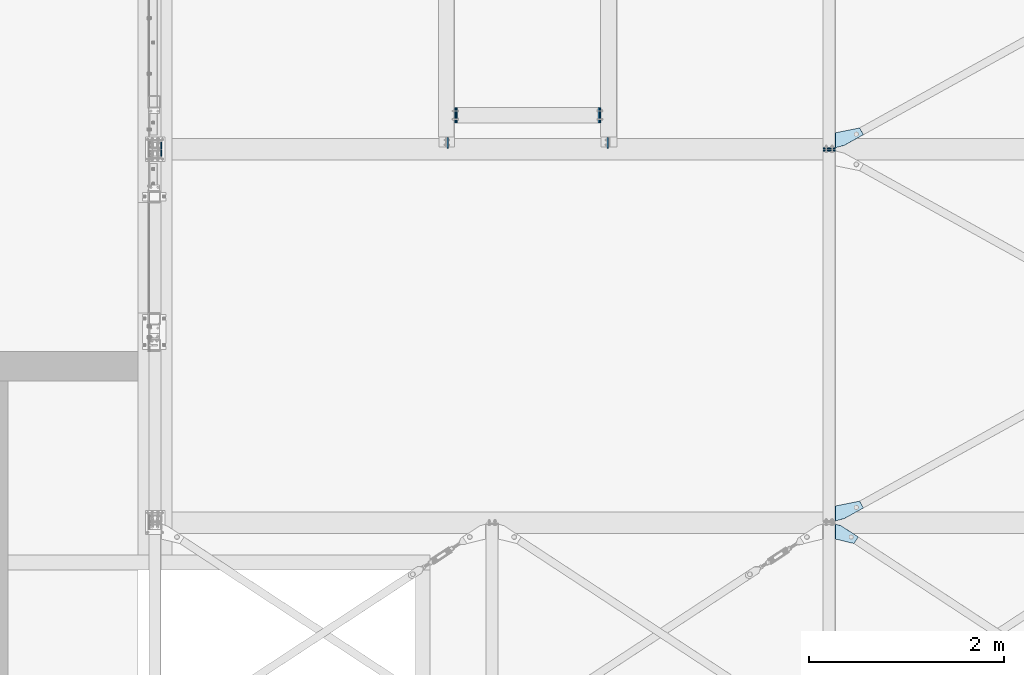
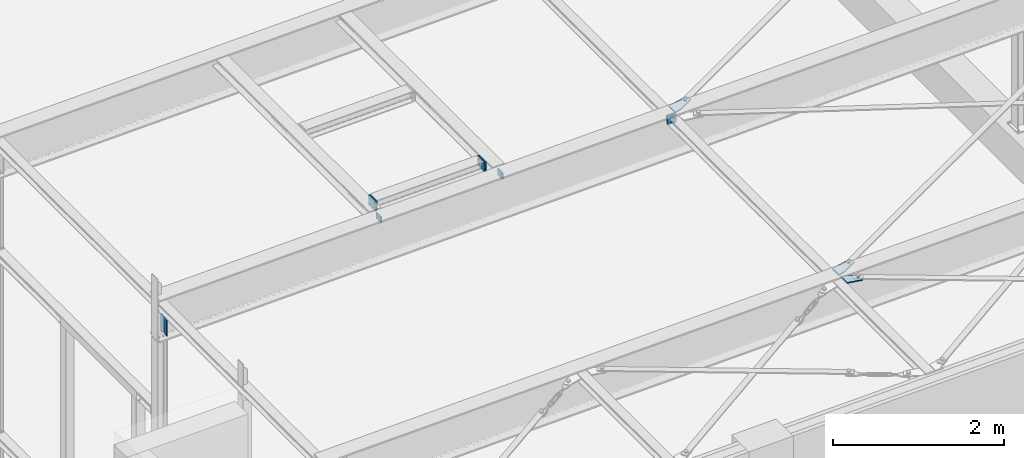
# One storey, part 36 of 476: 13 plates, 59 openings.
"""IFC2X3 building model written with IfcOpenShell, lengths in millimetres."""

from ifc_helpers import new_model, entity, si_unit, converted_unit, point, frame, frame_2d, origin, origin_with_axes, origin_2d_with_axis, place, context, project, spatial, polyline, circle_curve, line_curve, trimmed, segment, composite_curve, circle, outline, extrude, material, layer, layer_set, element, save


model = new_model("IFC2X3")

# Units and contexts
model_context = context("Model", 3, precision=1e-09, world=origin_with_axes())
ifc_project = project(units=[si_unit("LENGTHUNIT", "METRE", prefix="MILLI"), si_unit("AREAUNIT", "SQUARE_METRE"), si_unit("VOLUMEUNIT", "CUBIC_METRE"), converted_unit("PLANEANGLEUNIT", "DEGREE", entity("IfcPlaneAngleMeasure", 0.01745329), si_unit("PLANEANGLEUNIT", "RADIAN"), dimensions=[0, 0, 0, 0, 0, 0, 0])], contexts=[model_context])

# Site, building, storey
site_placement = place(None, origin_with_axes())
site = spatial("IfcSite", under=ifc_project, at=site_placement, Name="mKR Teilneubau & Sanierung BA1 - Ostfildern", CompositionType="ELEMENT")
building_placement = place(site_placement, origin_with_axes())
building = spatial("IfcBuilding", under=site, at=building_placement, Name="Struktur 1", CompositionType="ELEMENT")
storey_placement = place(building_placement, origin_with_axes())
storey = spatial("IfcBuildingStorey", under=building, at=storey_placement, Name="Default Storey", CompositionType="ELEMENT", Elevation=0.0)

# Plate, openings
ifc_material = material(Name="S235JR")
ifc_layer_1 = layer(ifc_material, 15.0)
ifc_layer_set_1 = layer_set([ifc_layer_1], Name="S235JR")
plate_1_placement = place(None, frame((15123.866061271, -21207.67287897, 5423.533418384), z_axis=(-0.030019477, 0.0, 0.999549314), x_axis=(0.999549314, 0.0, 0.030019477)))
plate_1 = element("IfcPlate", 1, at=plate_1_placement, inside=storey, material=ifc_layer_set_1, Name="-", ObjectType="-", context=model_context, shape_type="SweptSolid", body=[
    extrude(outline(polyline([(0.0, 0.0), (55.140356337, 0.0), (291.381008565, 130.729269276), (252.646618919, 200.726934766), (1e-09, 150.0), (0.0, 0.0)])), origin_with_axes(), (0.0, 0.0, -1.0), 15.0),
])
opening_1_placement = place(plate_1_placement, frame((55.140356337, 0.0, 0.01), z_axis=(0.0, 0.0, 1.0), x_axis=(0.874966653, 0.484183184, 0.0)))
element("IfcOpeningElement", 2, at=opening_1_placement, cuts=plate_1, ObjectType="Opening", context=model_context, shape_type="SweptSolid", body=[
    extrude(outline(composite_curve([segment(trimmed(line_curve((0.0, 0.0), (1.0, 0.0), 45.191234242), [point((0.0, 0.0))], [point((45.191234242, 0.0))], True, "CARTESIAN"), True, "CONTINUOUS"), segment(trimmed(circle_curve(frame_2d((45.191234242, 175.0), x_axis=(-1.0, 0.0)), 175.0), [point((45.191234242, 0.0))], [point((-39.540822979, 21.880835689))], False, "CARTESIAN"), True, "CONTINUOUS"), segment(trimmed(line_curve((-39.540822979, 21.880835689), (0.874966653, -0.484183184), 45.191234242), [point((-39.540822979, 21.880835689))], [point((0.0, 0.0))], True, "CARTESIAN"), True, "CONTINUOUS")], self_intersect=False)), origin(), (0.0, 0.0, -1.0), 15.02),
])
opening_2_placement = place(plate_1_placement, frame((0.0, -0.001, 0.0), z_axis=(0.0, 1.0, 0.0), x_axis=(1.0, 0.0, 0.0)))
element("IfcOpeningElement", 3, at=opening_2_placement, cuts=plate_1, ObjectType="Opening", context=model_context, shape_type="SweptSolid", body=[
    extrude(outline(polyline([(0.0, 0.0), (8.0, 0.0), (0.0, 8.0), (0.0, 0.0)])), origin(), (0.0, 0.0, 1.0), 151.628257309),
])
opening_3_placement = place(plate_1_placement, frame((232.203782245, 143.697336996, -15.499404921), z_axis=(2.2474e-05, 0.0, -1.0), x_axis=(-1.0, 0.0, -2.2474e-05)))
element("IfcOpeningElement", 4, at=opening_3_placement, cuts=plate_1, ObjectType="Opening", context=model_context, shape_type="SweptSolid", body=[
    extrude(circle(Radius=14.501, at=frame_2d((12.687891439, -7.021140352), x_axis=(1.0, 0.0))), origin(), (0.0, 0.0, -1.0), 16.000000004),
])

plate_2_placement = place(None, frame((15123.866061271, -17387.67287897, 5423.533418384), z_axis=(-0.030019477, 0.0, 0.999549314), x_axis=(0.999549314, 0.0, 0.030019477)))
plate_2 = element("IfcPlate", 5, at=plate_2_placement, inside=storey, material=ifc_layer_set_1, Name="-", ObjectType="-", context=model_context, shape_type="SweptSolid", body=[
    extrude(outline(polyline([(0.0, 0.0), (55.140356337, 0.0), (291.381008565, 130.729269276), (252.646618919, 200.726934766), (1e-09, 150.0), (0.0, 0.0)])), origin_with_axes(), (0.0, 0.0, -1.0), 15.0),
])
opening_4_placement = place(plate_2_placement, frame((55.140356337, 0.0, 0.01), z_axis=(0.0, 0.0, 1.0), x_axis=(0.874966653, 0.484183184, 0.0)))
element("IfcOpeningElement", 6, at=opening_4_placement, cuts=plate_2, ObjectType="Opening", context=model_context, shape_type="SweptSolid", body=[
    extrude(outline(composite_curve([segment(trimmed(line_curve((0.0, 0.0), (1.0, 0.0), 45.191234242), [point((0.0, 0.0))], [point((45.191234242, 0.0))], True, "CARTESIAN"), True, "CONTINUOUS"), segment(trimmed(circle_curve(frame_2d((45.191234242, 175.0), x_axis=(-1.0, 0.0)), 175.0), [point((45.191234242, 0.0))], [point((-39.540822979, 21.880835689))], False, "CARTESIAN"), True, "CONTINUOUS"), segment(trimmed(line_curve((-39.540822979, 21.880835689), (0.874966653, -0.484183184), 45.191234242), [point((-39.540822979, 21.880835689))], [point((0.0, 0.0))], True, "CARTESIAN"), True, "CONTINUOUS")], self_intersect=False)), origin(), (0.0, 0.0, -1.0), 15.02),
])
opening_5_placement = place(plate_2_placement, frame((0.0, -0.001, 0.0), z_axis=(0.0, 1.0, 0.0), x_axis=(1.0, 0.0, 0.0)))
element("IfcOpeningElement", 7, at=opening_5_placement, cuts=plate_2, ObjectType="Opening", context=model_context, shape_type="SweptSolid", body=[
    extrude(outline(polyline([(0.0, 0.0), (8.0, 0.0), (0.0, 8.0), (0.0, 0.0)])), origin(), (0.0, 0.0, 1.0), 151.628257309),
])
opening_6_placement = place(plate_2_placement, frame((232.203782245, 143.697336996, -15.499404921), z_axis=(2.2474e-05, 0.0, -1.0), x_axis=(-1.0, 0.0, -2.2474e-05)))
element("IfcOpeningElement", 8, at=opening_6_placement, cuts=plate_2, ObjectType="Opening", context=model_context, shape_type="SweptSolid", body=[
    extrude(circle(Radius=14.501, at=frame_2d((12.687891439, -7.021140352), x_axis=(1.0, 0.0))), origin(), (0.0, 0.0, -1.0), 16.000000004),
])

plate_3_placement = place(None, frame((15123.866061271, -21243.67487897, 5423.533418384), z_axis=(0.030019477, 0.0, -0.999549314), x_axis=(0.999549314, 0.0, 0.030019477)))
plate_3 = element("IfcPlate", 9, at=plate_3_placement, inside=storey, material=ifc_layer_set_1, Name="-", ObjectType="-", context=model_context, shape_type="SweptSolid", body=[
    extrude(outline(polyline([(0.0, 0.0), (40.371139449, 0.0), (239.157976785, 130.393742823), (195.281580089, 197.285566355), (1e-09, 150.0), (0.0, 0.0)])), origin_with_axes(), (0.0, 0.0, 1.0), 15.0),
])
opening_7_placement = place(plate_3_placement, frame((1e-09, 151.938123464, 0.0), z_axis=(0.0, -1.0, 0.0), x_axis=(1.0, 0.0, 0.0)))
element("IfcOpeningElement", 10, at=opening_7_placement, cuts=plate_3, ObjectType="Opening", context=model_context, shape_type="SweptSolid", body=[
    extrude(outline(polyline([(0.0, 0.0), (8.0, 0.0), (0.0, 8.0), (0.0, 0.0)])), origin(), (0.0, 0.0, 1.0), 151.959123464),
])
opening_8_placement = place(plate_3_placement, frame((0.0, 0.0, -0.01), z_axis=(0.0, 0.0, 1.0), x_axis=(1.0, 0.0, 0.0)))
element("IfcOpeningElement", 11, at=opening_8_placement, cuts=plate_3, ObjectType="Opening", context=model_context, shape_type="SweptSolid", body=[
    extrude(outline(composite_curve([segment(trimmed(line_curve((40.371139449, 0.0), (0.83616389, 0.548479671), 29.87095402), [point((40.371139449, 0.0))], [point((65.348152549, 16.383611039))], True, "CARTESIAN"), True, "CONTINUOUS"), segment(trimmed(circle_curve(frame_2d((10.500185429, 100.0), x_axis=(-1.0, 0.0)), 100.0), [point((65.348152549, 16.383611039))], [point((10.500185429, 0.0))], False, "CARTESIAN"), True, "CONTINUOUS"), segment(trimmed(line_curve((10.500185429, 0.0), (1.0, 0.0), 29.87095402), [point((10.500185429, 0.0))], [point((40.371139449, 0.0))], True, "CARTESIAN"), True, "CONTINUOUS")], self_intersect=False)), origin(), (0.0, 0.0, 1.0), 15.02),
])
opening_9_placement = place(plate_3_placement, frame((167.050213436, 130.930465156, 15.5), z_axis=(0.0, 0.0, -1.0), x_axis=(0.0, -1.0, 0.0)))
element("IfcOpeningElement", 12, at=opening_9_placement, cuts=plate_3, ObjectType="Opening", context=model_context, shape_type="SweptSolid", body=[
    extrude(circle(Radius=14.501, at=origin_2d_with_axis()), origin(), (0.0, 0.0, 1.0), 16.0),
])

plate_4_placement = place(None, frame((11259.887346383, -17055.673034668, 5291.208635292), z_axis=(-0.999549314, 0.0, -0.030019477), x_axis=(0.030019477, 0.0, -0.999549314)))
plate_4 = element("IfcPlate", 13, at=plate_4_placement, inside=storey, material=ifc_layer_set_1, Name="Endplate#1", ObjectType="Endplate#1", context=model_context, shape_type="SweptSolid", body=[
    extrude(outline(polyline([(-70.0, -80.0), (70.0, -80.0), (70.0, 80.0), (-70.0, 80.0), (-70.0, -80.0)])), origin_with_axes(), (0.0, 0.0, 1.0), 15.0),
])
opening_10_placement = place(plate_4_placement, frame((52.0, 18.0, 15.5), z_axis=(0.0, 0.0, -1.0), x_axis=(-1.0, 0.0, 0.0)))
element("IfcOpeningElement", 14, at=opening_10_placement, cuts=plate_4, ObjectType="Opening", context=model_context, shape_type="SweptSolid", body=[
    extrude(circle(Radius=6.001, at=origin_2d_with_axis()), origin(), (0.0, 0.0, 1.0), 16.0),
])
opening_11_placement = place(plate_4_placement, frame((-52.0, 18.0, 15.5), z_axis=(0.0, 0.0, -1.0), x_axis=(-1.0, 0.0, 0.0)))
element("IfcOpeningElement", 15, at=opening_11_placement, cuts=plate_4, ObjectType="Opening", context=model_context, shape_type="SweptSolid", body=[
    extrude(circle(Radius=6.001, at=origin_2d_with_axis()), origin(), (0.0, 0.0, 1.0), 16.0),
])
opening_12_placement = place(plate_4_placement, frame((-52.0, -18.0, 15.5), z_axis=(0.0, 0.0, -1.0), x_axis=(-1.0, 0.0, 0.0)))
element("IfcOpeningElement", 16, at=opening_12_placement, cuts=plate_4, ObjectType="Opening", context=model_context, shape_type="SweptSolid", body=[
    extrude(circle(Radius=6.001, at=origin_2d_with_axis()), origin(), (0.0, 0.0, 1.0), 16.0),
])
opening_13_placement = place(plate_4_placement, frame((52.0, -18.0, 15.5), z_axis=(0.0, 0.0, -1.0), x_axis=(-1.0, 0.0, 0.0)))
element("IfcOpeningElement", 17, at=opening_13_placement, cuts=plate_4, ObjectType="Opening", context=model_context, shape_type="SweptSolid", body=[
    extrude(circle(Radius=6.001, at=origin_2d_with_axis()), origin(), (0.0, 0.0, 1.0), 16.0),
])
opening_14_placement = place(plate_4_placement, frame((35.0, 43.0, 15.5), z_axis=(0.0, 0.0, -1.0), x_axis=(-1.0, 0.0, 0.0)))
element("IfcOpeningElement", 18, at=opening_14_placement, cuts=plate_4, ObjectType="Opening", context=model_context, shape_type="SweptSolid", body=[
    extrude(circle(Radius=7.001, at=frame_2d((70.0, 0.0), x_axis=(1.0, 0.0))), origin(), (0.0, 0.0, 1.0), 16.0),
])
opening_15_placement = place(plate_4_placement, frame((35.0, 43.0, 15.5), z_axis=(0.0, 0.0, -1.0), x_axis=(-1.0, 0.0, 0.0)))
element("IfcOpeningElement", 19, at=opening_15_placement, cuts=plate_4, ObjectType="Opening", context=model_context, shape_type="SweptSolid", body=[
    extrude(circle(Radius=7.001, at=origin_2d_with_axis()), origin(), (0.0, 0.0, 1.0), 16.0),
])
opening_16_placement = place(plate_4_placement, frame((35.0, -43.0, 15.5), z_axis=(0.0, 0.0, -1.0), x_axis=(0.0, -1.0, 0.0)))
element("IfcOpeningElement", 20, at=opening_16_placement, cuts=plate_4, ObjectType="Opening", context=model_context, shape_type="SweptSolid", body=[
    extrude(circle(Radius=7.001, at=frame_2d((0.0, 70.0), x_axis=(1.0, 0.0))), origin(), (0.0, 0.0, 1.0), 16.0),
])
opening_17_placement = place(plate_4_placement, frame((35.0, -43.0, 15.5), z_axis=(0.0, 0.0, -1.0), x_axis=(0.0, -1.0, 0.0)))
element("IfcOpeningElement", 21, at=opening_17_placement, cuts=plate_4, ObjectType="Opening", context=model_context, shape_type="SweptSolid", body=[
    extrude(circle(Radius=7.001, at=origin_2d_with_axis()), origin(), (0.0, 0.0, 1.0), 16.0),
])

plate_5_placement = place(None, frame((11229.900866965, -17055.673034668, 5290.308050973), z_axis=(0.999549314, 0.0, 0.030019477), x_axis=(0.0, 1.0, 0.0)))
plate_5 = element("IfcPlate", 22, at=plate_5_placement, inside=storey, material=ifc_layer_set_1, Name="T-plate", ObjectType="T-plate", context=model_context, shape_type="SweptSolid", body=[
    extrude(outline(polyline([(-80.0, -70.0), (80.0, -70.0), (80.0, 70.0), (-80.0, 70.0), (-80.0, -70.0)])), origin_with_axes(), (0.0, 0.0, 1.0), 15.0),
])
opening_18_placement = place(plate_5_placement, frame((-43.0, -35.0, -0.5), z_axis=(0.0, 0.0, 1.0), x_axis=(0.0, 1.0, 0.0)))
element("IfcOpeningElement", 23, at=opening_18_placement, cuts=plate_5, ObjectType="Opening", context=model_context, shape_type="SweptSolid", body=[
    extrude(circle(Radius=7.001, at=frame_2d((70.0, 0.0), x_axis=(1.0, 0.0))), origin(), (0.0, 0.0, 1.0), 16.0),
])
opening_19_placement = place(plate_5_placement, frame((-43.0, -35.0, -0.5), z_axis=(0.0, 0.0, 1.0), x_axis=(0.0, 1.0, 0.0)))
element("IfcOpeningElement", 24, at=opening_19_placement, cuts=plate_5, ObjectType="Opening", context=model_context, shape_type="SweptSolid", body=[
    extrude(circle(Radius=7.001, at=origin_2d_with_axis()), origin(), (0.0, 0.0, 1.0), 16.0),
])
opening_20_placement = place(plate_5_placement, frame((43.0, -35.0, -0.5), z_axis=(0.0, 0.0, 1.0), x_axis=(1.0, 0.0, 0.0)))
element("IfcOpeningElement", 25, at=opening_20_placement, cuts=plate_5, ObjectType="Opening", context=model_context, shape_type="SweptSolid", body=[
    extrude(circle(Radius=7.001, at=frame_2d((0.0, 70.0), x_axis=(1.0, 0.0))), origin(), (0.0, 0.0, 1.0), 16.0),
])
opening_21_placement = place(plate_5_placement, frame((43.0, -35.0, -0.5), z_axis=(0.0, 0.0, 1.0), x_axis=(1.0, 0.0, 0.0)))
element("IfcOpeningElement", 26, at=opening_21_placement, cuts=plate_5, ObjectType="Opening", context=model_context, shape_type="SweptSolid", body=[
    extrude(circle(Radius=7.001, at=origin_2d_with_axis()), origin(), (0.0, 0.0, 1.0), 16.0),
])

plate_6_placement = place(None, frame((12804.92814849, -17399.67387897, 5379.66874502), z_axis=(-0.999549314, 0.0, -0.030019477), x_axis=(0.0, 1.0, 0.0)))
plate_6 = element("IfcPlate", 27, at=plate_6_placement, inside=storey, material=ifc_layer_set_1, Name="LugPlate#1", ObjectType="LugPlate#1", context=model_context, shape_type="SweptSolid", body=[
    extrude(outline(polyline([(0.0, 0.0), (115.0, 0.0), (115.0, 90.0), (0.0, 90.0), (0.0, 0.0)])), origin_with_axes(), (0.0, 0.0, 1.0), 15.0),
])
opening_22_placement = place(plate_6_placement, frame((0.0, 0.0, 15.1), z_axis=(0.0, 0.0, -1.0), x_axis=(1.0, 0.0, 0.0)))
element("IfcOpeningElement", 28, at=opening_22_placement, cuts=plate_6, ObjectType="Opening", context=model_context, shape_type="SweptSolid", body=[
    extrude(outline(polyline([(24.002414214, 15.000932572), (-0.001, 15.000932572), (-0.001, -9.002481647), (24.002414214, 15.000932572)])), origin(), (0.0, 0.0, 1.0), 15.2),
])
opening_23_placement = place(plate_6_placement, frame((82.999, 65.0, 15.5), z_axis=(0.0, 0.0, 1.0), x_axis=(1.0, 0.0, 0.0)))
element("IfcOpeningElement", 29, at=opening_23_placement, cuts=plate_6, ObjectType="Opening", context=model_context, shape_type="SweptSolid", body=[
    extrude(circle(Radius=7.001, at=frame_2d((7.001, 0.0), x_axis=(1.0, 0.0))), origin(), (0.0, 0.0, -1.0), 16.0),
])
opening_24_placement = place(plate_6_placement, frame((32.999, 65.0, 15.5), z_axis=(0.0, 0.0, 1.0), x_axis=(1.0, 0.0, 0.0)))
element("IfcOpeningElement", 30, at=opening_24_placement, cuts=plate_6, ObjectType="Opening", context=model_context, shape_type="SweptSolid", body=[
    extrude(circle(Radius=7.001, at=frame_2d((7.001, 0.0), x_axis=(1.0, 0.0))), origin(), (0.0, 0.0, -1.0), 16.0),
])
opening_25_placement = place(plate_6_placement, frame((82.999, 25.0, 15.5), z_axis=(0.0, 0.0, 1.0), x_axis=(1.0, 0.0, 0.0)))
element("IfcOpeningElement", 31, at=opening_25_placement, cuts=plate_6, ObjectType="Opening", context=model_context, shape_type="SweptSolid", body=[
    extrude(circle(Radius=7.001, at=frame_2d((7.001, 0.0), x_axis=(1.0, 0.0))), origin(), (0.0, 0.0, -1.0), 16.0),
])
opening_26_placement = place(plate_6_placement, frame((32.999, 25.0, 15.5), z_axis=(0.0, 0.0, 1.0), x_axis=(1.0, 0.0, 0.0)))
element("IfcOpeningElement", 32, at=opening_26_placement, cuts=plate_6, ObjectType="Opening", context=model_context, shape_type="SweptSolid", body=[
    extrude(circle(Radius=7.001, at=frame_2d((7.001, 0.0), x_axis=(1.0, 0.0))), origin(), (0.0, 0.0, -1.0), 16.0),
])

plate_7_placement = place(None, frame((11154.376456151, -17399.67387897, 5240.019800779), z_axis=(0.999549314, 0.0, 0.030019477), x_axis=(0.0, 1.0, 0.0)))
plate_7 = element("IfcPlate", 33, at=plate_7_placement, inside=storey, material=ifc_layer_set_1, Name="LugPlate#2", ObjectType="LugPlate#2", context=model_context, shape_type="SweptSolid", body=[
    extrude(outline(polyline([(0.0, 0.0), (115.0, 0.0), (115.0, 90.0), (0.0, 90.0), (0.0, 0.0)])), origin_with_axes(), (0.0, 0.0, 1.0), 15.0),
])
opening_27_placement = place(plate_7_placement, frame((0.0, 0.0, -0.1), z_axis=(0.0, 0.0, 1.0), x_axis=(1.0, 0.0, 0.0)))
element("IfcOpeningElement", 34, at=opening_27_placement, cuts=plate_7, ObjectType="Opening", context=model_context, shape_type="SweptSolid", body=[
    extrude(outline(polyline([(24.002414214, 105.001067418), (-0.001, 105.001067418), (-0.001, 80.997653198), (24.002414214, 105.001067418)])), origin(), (0.0, 0.0, 1.0), 15.2),
])
opening_28_placement = place(plate_7_placement, frame((82.999, 25.0, -0.5), z_axis=(0.0, 0.0, -1.0), x_axis=(-1.0, 0.0, 0.0)))
element("IfcOpeningElement", 35, at=opening_28_placement, cuts=plate_7, ObjectType="Opening", context=model_context, shape_type="SweptSolid", body=[
    extrude(circle(Radius=7.001, at=frame_2d((-7.001, 0.0), x_axis=(1.0, 0.0))), origin(), (0.0, 0.0, -1.0), 16.0),
])
opening_29_placement = place(plate_7_placement, frame((32.999, 25.0, -0.5), z_axis=(0.0, 0.0, -1.0), x_axis=(-1.0, 0.0, 0.0)))
element("IfcOpeningElement", 36, at=opening_29_placement, cuts=plate_7, ObjectType="Opening", context=model_context, shape_type="SweptSolid", body=[
    extrude(circle(Radius=7.001, at=frame_2d((-7.001, 0.0), x_axis=(1.0, 0.0))), origin(), (0.0, 0.0, -1.0), 16.0),
])
opening_30_placement = place(plate_7_placement, frame((82.999, 65.0, -0.5), z_axis=(0.0, 0.0, -1.0), x_axis=(-1.0, 0.0, 0.0)))
element("IfcOpeningElement", 37, at=opening_30_placement, cuts=plate_7, ObjectType="Opening", context=model_context, shape_type="SweptSolid", body=[
    extrude(circle(Radius=7.001, at=frame_2d((-7.001, 0.0), x_axis=(1.0, 0.0))), origin(), (0.0, 0.0, -1.0), 16.0),
])
opening_31_placement = place(plate_7_placement, frame((32.999, 65.0, -0.5), z_axis=(0.0, 0.0, -1.0), x_axis=(-1.0, 0.0, 0.0)))
element("IfcOpeningElement", 38, at=opening_31_placement, cuts=plate_7, ObjectType="Opening", context=model_context, shape_type="SweptSolid", body=[
    extrude(circle(Radius=7.001, at=frame_2d((-7.001, 0.0), x_axis=(1.0, 0.0))), origin(), (0.0, 0.0, -1.0), 16.0),
])

plate_8_placement = place(None, frame((12699.238358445, -17055.673034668, 5334.436682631), z_axis=(0.999549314, 0.0, 0.030019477), x_axis=(0.030019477, 0.0, -0.999549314)))
plate_8 = element("IfcPlate", 39, at=plate_8_placement, inside=storey, material=ifc_layer_set_1, Name="Endplate#1", ObjectType="Endplate#1", context=model_context, shape_type="SweptSolid", body=[
    extrude(outline(polyline([(-70.0, -80.0), (70.0, -80.0), (70.0, 80.0), (-70.0, 80.0), (-70.0, -80.0)])), origin_with_axes(), (0.0, 0.0, 1.0), 15.0),
])
opening_32_placement = place(plate_8_placement, frame((52.0, -18.0, 15.5), z_axis=(0.0, 0.0, -1.0), x_axis=(1.0, 0.0, 0.0)))
element("IfcOpeningElement", 40, at=opening_32_placement, cuts=plate_8, ObjectType="Opening", context=model_context, shape_type="SweptSolid", body=[
    extrude(circle(Radius=6.001, at=origin_2d_with_axis()), origin(), (0.0, 0.0, 1.0), 16.0),
])
opening_33_placement = place(plate_8_placement, frame((-52.0, -18.0, 15.5), z_axis=(0.0, 0.0, -1.0), x_axis=(1.0, 0.0, 0.0)))
element("IfcOpeningElement", 41, at=opening_33_placement, cuts=plate_8, ObjectType="Opening", context=model_context, shape_type="SweptSolid", body=[
    extrude(circle(Radius=6.001, at=origin_2d_with_axis()), origin(), (0.0, 0.0, 1.0), 16.0),
])
opening_34_placement = place(plate_8_placement, frame((-52.0, 18.0, 15.5), z_axis=(0.0, 0.0, -1.0), x_axis=(1.0, 0.0, 0.0)))
element("IfcOpeningElement", 42, at=opening_34_placement, cuts=plate_8, ObjectType="Opening", context=model_context, shape_type="SweptSolid", body=[
    extrude(circle(Radius=6.001, at=origin_2d_with_axis()), origin(), (0.0, 0.0, 1.0), 16.0),
])
opening_35_placement = place(plate_8_placement, frame((52.0, 18.0, 15.5), z_axis=(0.0, 0.0, -1.0), x_axis=(1.0, 0.0, 0.0)))
element("IfcOpeningElement", 43, at=opening_35_placement, cuts=plate_8, ObjectType="Opening", context=model_context, shape_type="SweptSolid", body=[
    extrude(circle(Radius=6.001, at=origin_2d_with_axis()), origin(), (0.0, 0.0, 1.0), 16.0),
])
opening_36_placement = place(plate_8_placement, frame((35.0, 43.0, 15.5), z_axis=(0.0, 0.0, -1.0), x_axis=(-1.0, 0.0, 0.0)))
element("IfcOpeningElement", 44, at=opening_36_placement, cuts=plate_8, ObjectType="Opening", context=model_context, shape_type="SweptSolid", body=[
    extrude(circle(Radius=7.001, at=frame_2d((70.0, 0.0), x_axis=(1.0, 0.0))), origin(), (0.0, 0.0, 1.0), 16.0),
])
opening_37_placement = place(plate_8_placement, frame((35.0, 43.0, 15.5), z_axis=(0.0, 0.0, -1.0), x_axis=(-1.0, 0.0, 0.0)))
element("IfcOpeningElement", 45, at=opening_37_placement, cuts=plate_8, ObjectType="Opening", context=model_context, shape_type="SweptSolid", body=[
    extrude(circle(Radius=7.001, at=origin_2d_with_axis()), origin(), (0.0, 0.0, 1.0), 16.0),
])
opening_38_placement = place(plate_8_placement, frame((35.0, -43.0, 15.5), z_axis=(0.0, 0.0, -1.0), x_axis=(0.0, -1.0, 0.0)))
element("IfcOpeningElement", 46, at=opening_38_placement, cuts=plate_8, ObjectType="Opening", context=model_context, shape_type="SweptSolid", body=[
    extrude(circle(Radius=7.001, at=frame_2d((0.0, 70.0), x_axis=(1.0, 0.0))), origin(), (0.0, 0.0, 1.0), 16.0),
])
opening_39_placement = place(plate_8_placement, frame((35.0, -43.0, 15.5), z_axis=(0.0, 0.0, -1.0), x_axis=(0.0, -1.0, 0.0)))
element("IfcOpeningElement", 47, at=opening_39_placement, cuts=plate_8, ObjectType="Opening", context=model_context, shape_type="SweptSolid", body=[
    extrude(circle(Radius=7.001, at=origin_2d_with_axis()), origin(), (0.0, 0.0, 1.0), 16.0),
])

plate_9_placement = place(None, frame((12729.224837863, -17055.673034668, 5335.33726695), z_axis=(-0.999549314, 0.0, -0.030019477), x_axis=(0.0, -1.0, 0.0)))
plate_9 = element("IfcPlate", 48, at=plate_9_placement, inside=storey, material=ifc_layer_set_1, Name="T-plate", ObjectType="T-plate", context=model_context, shape_type="SweptSolid", body=[
    extrude(outline(polyline([(-80.0, -70.0), (80.0, -70.0), (80.0, 70.0), (-80.0, 70.0), (-80.0, -70.0)])), origin_with_axes(), (0.0, 0.0, 1.0), 15.0),
])
opening_40_placement = place(plate_9_placement, frame((-43.0, -35.0, -0.5), z_axis=(0.0, 0.0, 1.0), x_axis=(0.0, 1.0, 0.0)))
element("IfcOpeningElement", 49, at=opening_40_placement, cuts=plate_9, ObjectType="Opening", context=model_context, shape_type="SweptSolid", body=[
    extrude(circle(Radius=7.001, at=frame_2d((70.0, 0.0), x_axis=(1.0, 0.0))), origin(), (0.0, 0.0, 1.0), 16.0),
])
opening_41_placement = place(plate_9_placement, frame((-43.0, -35.0, -0.5), z_axis=(0.0, 0.0, 1.0), x_axis=(0.0, 1.0, 0.0)))
element("IfcOpeningElement", 50, at=opening_41_placement, cuts=plate_9, ObjectType="Opening", context=model_context, shape_type="SweptSolid", body=[
    extrude(circle(Radius=7.001, at=origin_2d_with_axis()), origin(), (0.0, 0.0, 1.0), 16.0),
])
opening_42_placement = place(plate_9_placement, frame((43.0, -35.0, -0.5), z_axis=(0.0, 0.0, 1.0), x_axis=(1.0, 0.0, 0.0)))
element("IfcOpeningElement", 51, at=opening_42_placement, cuts=plate_9, ObjectType="Opening", context=model_context, shape_type="SweptSolid", body=[
    extrude(circle(Radius=7.001, at=frame_2d((0.0, 70.0), x_axis=(1.0, 0.0))), origin(), (0.0, 0.0, 1.0), 16.0),
])
opening_43_placement = place(plate_9_placement, frame((43.0, -35.0, -0.5), z_axis=(0.0, 0.0, 1.0), x_axis=(1.0, 0.0, 0.0)))
element("IfcOpeningElement", 52, at=opening_43_placement, cuts=plate_9, ObjectType="Opening", context=model_context, shape_type="SweptSolid", body=[
    extrude(circle(Radius=7.001, at=origin_2d_with_axis()), origin(), (0.0, 0.0, 1.0), 16.0),
])

ifc_layer_2 = layer(ifc_material, 10.0)
ifc_layer_set_2 = layer_set([ifc_layer_2], Name="S235JR")
plate_10_placement = place(None, frame((8222.108764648, -17476.67387897, 4696.483942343), z_axis=(1.0, 0.0, 0.0), x_axis=(0.0, 1.0, 0.0)))
plate_10 = element("IfcPlate", 53, at=plate_10_placement, inside=storey, material=ifc_layer_set_2, Name="Stiffener#2", ObjectType="Stiffener#2", context=model_context, shape_type="SweptSolid", body=[
    extrude(outline(polyline([(0.0, 0.0), (65.0, 0.0), (65.0, 250.0), (0.0, 250.0), (0.0, 0.0)])), origin_with_axes(), (0.0, 0.0, 1.0), 10.0),
])
opening_44_placement = place(plate_10_placement, frame((0.0, 0.0, -0.01), z_axis=(0.0, 0.0, 1.0), x_axis=(1.0, 0.0, 0.0)))
element("IfcOpeningElement", 54, at=opening_44_placement, cuts=plate_10, ObjectType="Opening", context=model_context, shape_type="SweptSolid", body=[
    extrude(outline(composite_curve([segment(trimmed(line_curve((65.0, 0.0), (0.0, 1.0), 25.0), [point((65.0, 0.0))], [point((65.0, 25.0))], True, "CARTESIAN"), True, "CONTINUOUS"), segment(trimmed(circle_curve(frame_2d((40.0, 25.0), x_axis=(-1.0, 0.0)), 25.0), [point((65.0, 25.0))], [point((40.0, 0.0))], False, "CARTESIAN"), True, "CONTINUOUS"), segment(trimmed(line_curve((40.0, 0.0), (1.0, 0.0), 25.0), [point((40.0, 0.0))], [point((65.0, 0.0))], True, "CARTESIAN"), True, "CONTINUOUS")], self_intersect=False)), origin(), (0.0, 0.0, 1.0), 10.02),
])
opening_45_placement = place(plate_10_placement, frame((41.0, 22.499322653, -0.5), z_axis=(0.0, 0.0, 1.0), x_axis=(0.0, 1.0, 0.0)))
element("IfcOpeningElement", 55, at=opening_45_placement, cuts=plate_10, ObjectType="Opening", context=model_context, shape_type="SweptSolid", body=[
    extrude(circle(Radius=7.001, at=frame_2d((-7.0, -7.0), x_axis=(1.0, 0.0))), origin(), (0.0, 0.0, 1.0), 11.0),
])

plate_11_placement = place(None, frame((8222.108764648, -17399.67387897, 4696.483942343), z_axis=(1.0, 0.0, 0.0), x_axis=(0.0, 1.0, 0.0)))
plate_11 = element("IfcPlate", 56, at=plate_11_placement, inside=storey, material=ifc_layer_set_2, Name="Stiffener#2", ObjectType="Stiffener#2", context=model_context, shape_type="SweptSolid", body=[
    extrude(outline(polyline([(0.0, 0.0), (65.0, 0.0), (65.0, 250.0), (0.0, 250.0), (0.0, 0.0)])), origin_with_axes(), (0.0, 0.0, 1.0), 10.0),
])
opening_46_placement = place(plate_11_placement, frame((0.0, 0.0, -0.01), z_axis=(0.0, 0.0, 1.0), x_axis=(1.0, 0.0, 0.0)))
element("IfcOpeningElement", 57, at=opening_46_placement, cuts=plate_11, ObjectType="Opening", context=model_context, shape_type="SweptSolid", body=[
    extrude(outline(composite_curve([segment(trimmed(line_curve((0.0, 0.0), (1.0, 0.0), 25.0), [point((0.0, 0.0))], [point((25.0, 0.0))], True, "CARTESIAN"), True, "CONTINUOUS"), segment(trimmed(circle_curve(frame_2d((25.0, 25.0), x_axis=(-1.0, 0.0)), 25.0), [point((25.0, 0.0))], [point((0.0, 25.0))], False, "CARTESIAN"), True, "CONTINUOUS"), segment(trimmed(line_curve((0.0, 25.0), (0.0, -1.0), 25.0), [point((0.0, 25.0))], [point((0.0, 0.0))], True, "CARTESIAN"), True, "CONTINUOUS")], self_intersect=False)), origin(), (0.0, 0.0, 1.0), 10.02),
])
opening_47_placement = place(plate_11_placement, frame((24.0, 22.499322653, -0.5), z_axis=(0.0, 0.0, 1.0), x_axis=(0.0, 1.0, 0.0)))
element("IfcOpeningElement", 58, at=opening_47_placement, cuts=plate_11, ObjectType="Opening", context=model_context, shape_type="SweptSolid", body=[
    extrude(circle(Radius=7.001, at=frame_2d((-7.0, 7.0), x_axis=(1.0, 0.0))), origin(), (0.0, 0.0, 1.0), 11.0),
])

ifc_layer_3 = layer(ifc_material, 12.0)
ifc_layer_set_3 = layer_set([ifc_layer_3], Name="S235JR")
plate_12_placement = place(None, frame((15123.720531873, -17411.67387897, 5428.37543939), z_axis=(0.0, -1.0, 0.0), x_axis=(-0.999549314, 0.0, -0.030019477)))
plate_12 = element("IfcPlate", 59, at=plate_12_placement, inside=storey, material=ifc_layer_set_3, Name="Endplate", ObjectType="Endplate", context=model_context, shape_type="SweptSolid", body=[
    extrude(outline(polyline([(0.0, 0.0), (120.0, 0.0), (120.0, 124.0), (0.0, 124.0), (0.0, 0.0)])), origin_with_axes(), (0.0, 0.0, 1.0), 12.0),
])
opening_48_placement = place(plate_12_placement, frame((89.999999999, 62.000112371, -0.5), z_axis=(0.0, 0.0, 1.0), x_axis=(0.0, -1.0, 0.0)))
element("IfcOpeningElement", 60, at=opening_48_placement, cuts=plate_12, ObjectType="Opening", context=model_context, shape_type="SweptSolid", body=[
    extrude(circle(Radius=7.001, at=origin_2d_with_axis()), origin(), (0.0, 0.0, 1.0), 13.0),
])
opening_49_placement = place(plate_12_placement, frame((30.000000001, 61.999887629, -0.5), z_axis=(0.0, 0.0, 1.0), x_axis=(0.0, -1.0, 0.0)))
element("IfcOpeningElement", 61, at=opening_49_placement, cuts=plate_12, ObjectType="Opening", context=model_context, shape_type="SweptSolid", body=[
    extrude(circle(Radius=7.001, at=origin_2d_with_axis()), origin(), (0.0, 0.0, 1.0), 13.0),
])
opening_50_placement = place(plate_12_placement, frame((74.5, 99.0, -0.5), z_axis=(0.0, 0.0, 1.0), x_axis=(0.0, -1.0, 0.0)))
element("IfcOpeningElement", 62, at=opening_50_placement, cuts=plate_12, ObjectType="Opening", context=model_context, shape_type="SweptSolid", body=[
    extrude(circle(Radius=6.001, at=origin_2d_with_axis()), origin(), (0.0, 0.0, 1.0), 13.0),
])
opening_51_placement = place(plate_12_placement, frame((74.5, 25.0, -0.5), z_axis=(0.0, 0.0, 1.0), x_axis=(0.0, -1.0, 0.0)))
element("IfcOpeningElement", 63, at=opening_51_placement, cuts=plate_12, ObjectType="Opening", context=model_context, shape_type="SweptSolid", body=[
    extrude(circle(Radius=6.001, at=origin_2d_with_axis()), origin(), (0.0, 0.0, 1.0), 13.0),
])
opening_52_placement = place(plate_12_placement, frame((45.5, 25.0, -0.5), z_axis=(0.0, 0.0, 1.0), x_axis=(0.0, -1.0, 0.0)))
element("IfcOpeningElement", 64, at=opening_52_placement, cuts=plate_12, ObjectType="Opening", context=model_context, shape_type="SweptSolid", body=[
    extrude(circle(Radius=6.001, at=origin_2d_with_axis()), origin(), (0.0, 0.0, 1.0), 13.0),
])
opening_53_placement = place(plate_12_placement, frame((45.5, 99.0, -0.5), z_axis=(0.0, 0.0, 1.0), x_axis=(0.0, -1.0, 0.0)))
element("IfcOpeningElement", 65, at=opening_53_placement, cuts=plate_12, ObjectType="Opening", context=model_context, shape_type="SweptSolid", body=[
    extrude(circle(Radius=6.001, at=origin_2d_with_axis()), origin(), (0.0, 0.0, 1.0), 13.0),
])

plate_13_placement = place(None, frame((15003.774614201, -17399.67387897, 5424.773102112), z_axis=(0.0, 1.0, 0.0), x_axis=(0.999549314, 0.0, 0.030019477)))
plate_13 = element("IfcPlate", 66, at=plate_13_placement, inside=storey, material=ifc_layer_set_3, Name="Endplate", ObjectType="Endplate", context=model_context, shape_type="SweptSolid", body=[
    extrude(outline(polyline([(0.0, 0.0), (120.0, 0.0), (120.0, 124.0), (0.0, 124.0), (0.0, 0.0)])), origin_with_axes(), (0.0, 0.0, 1.0), 12.0),
])
opening_54_placement = place(plate_13_placement, frame((30.000000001, 62.000112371, 12.5), z_axis=(0.0, 0.0, -1.0), x_axis=(0.0, -1.0, 0.0)))
element("IfcOpeningElement", 67, at=opening_54_placement, cuts=plate_13, ObjectType="Opening", context=model_context, shape_type="SweptSolid", body=[
    extrude(circle(Radius=7.001, at=origin_2d_with_axis()), origin(), (0.0, 0.0, 1.0), 13.0),
])
opening_55_placement = place(plate_13_placement, frame((89.999999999, 61.999887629, 12.5), z_axis=(0.0, 0.0, -1.0), x_axis=(0.0, -1.0, 0.0)))
element("IfcOpeningElement", 68, at=opening_55_placement, cuts=plate_13, ObjectType="Opening", context=model_context, shape_type="SweptSolid", body=[
    extrude(circle(Radius=7.001, at=origin_2d_with_axis()), origin(), (0.0, 0.0, 1.0), 13.0),
])
opening_56_placement = place(plate_13_placement, frame((45.5, 99.0, -0.5), z_axis=(0.0, 0.0, 1.0), x_axis=(0.0, 1.0, 0.0)))
element("IfcOpeningElement", 69, at=opening_56_placement, cuts=plate_13, ObjectType="Opening", context=model_context, shape_type="SweptSolid", body=[
    extrude(circle(Radius=6.001, at=origin_2d_with_axis()), origin(), (0.0, 0.0, 1.0), 13.0),
])
opening_57_placement = place(plate_13_placement, frame((45.5, 25.0, -0.5), z_axis=(0.0, 0.0, 1.0), x_axis=(0.0, 1.0, 0.0)))
element("IfcOpeningElement", 70, at=opening_57_placement, cuts=plate_13, ObjectType="Opening", context=model_context, shape_type="SweptSolid", body=[
    extrude(circle(Radius=6.001, at=origin_2d_with_axis()), origin(), (0.0, 0.0, 1.0), 13.0),
])
opening_58_placement = place(plate_13_placement, frame((74.5, 25.0, -0.5), z_axis=(0.0, 0.0, 1.0), x_axis=(0.0, 1.0, 0.0)))
element("IfcOpeningElement", 71, at=opening_58_placement, cuts=plate_13, ObjectType="Opening", context=model_context, shape_type="SweptSolid", body=[
    extrude(circle(Radius=6.001, at=origin_2d_with_axis()), origin(), (0.0, 0.0, 1.0), 13.0),
])
opening_59_placement = place(plate_13_placement, frame((74.5, 99.0, -0.5), z_axis=(0.0, 0.0, 1.0), x_axis=(0.0, 1.0, 0.0)))
element("IfcOpeningElement", 72, at=opening_59_placement, cuts=plate_13, ObjectType="Opening", context=model_context, shape_type="SweptSolid", body=[
    extrude(circle(Radius=6.001, at=origin_2d_with_axis()), origin(), (0.0, 0.0, 1.0), 13.0),
])

save(model, "model.ifc")
